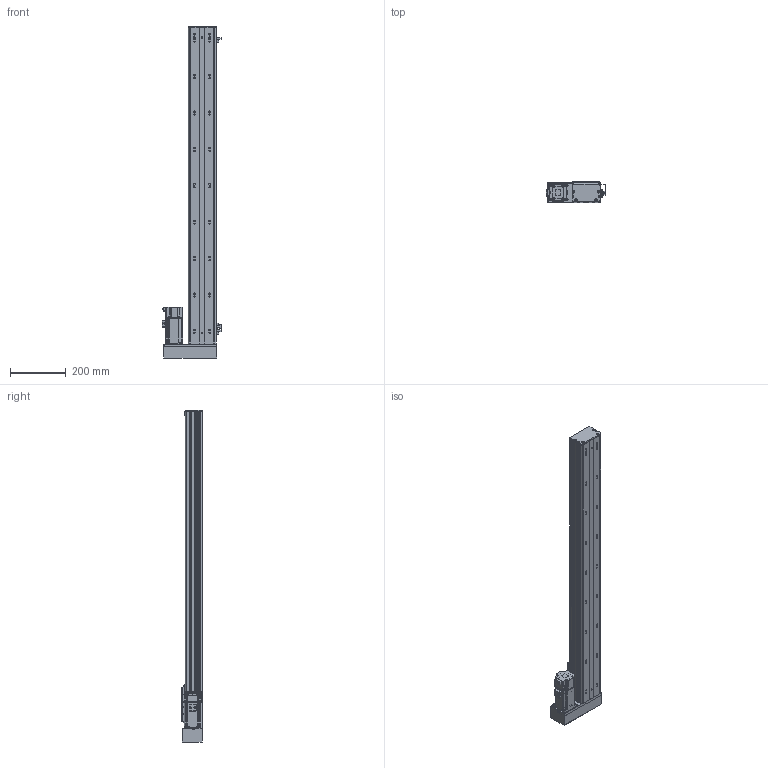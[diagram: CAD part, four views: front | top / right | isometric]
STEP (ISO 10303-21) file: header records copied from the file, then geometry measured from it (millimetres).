
FILE_DESCRIPTION (( 'STEP AP203' ), '1' );
FILE_NAME ('BOSW100-950-1610-1P-RM-M400W-O-S3（方程式2016）.step', '2020-10-10T07:22:18', ( '' ), ( '' ), 'SwSTEP 2.0', 'SolidWorks 2016', '' );
FILE_SCHEMA (( 'CONFIG_CONTROL_DESIGN' ));
Length unit declared in the file: millimetre
Products named in the file (14): BOSW100-950-1610-1P-RM-M400W-O-S3（方程式2016）; BOSW-100-綴裔啣; BOSW-100-1P-DM-宽轨-侧板-950客户图纸; BOSW-100-1P-DM-宽轨-钢带-950客户图纸; BOSW&TW-100-詩湍揤沭(陔賦凳); boS-100-LM&RM-三菱M400W马达板-宽轨; S400W(SMA-L040); 俋境嫖覜嘐隅啣; 新结构AIMSW-100-1P-宽&高轨共用-滑动座上组件; BOSW&TW-100-俋离覜茼え; BOSW&TW-100-1P-賑雄釱欶; AIMS(W)-100-LM&RM-肮祭謫欶; 放大器内置U型微型光电传感器PM-L65; BOSW-100-1P-DM-950諦誧芞
Assembly tree (19 placements, depth 2):
  BOSW100-950-1610-1P-RM-M400W-O-S3（方程式2016）
    BOSW-100-1P-DM-950諦誧芞
    BOSW-100-綴裔啣
    新结构AIMSW-100-1P-宽&高轨共用-滑动座上组件
    S400W(SMA-L040)
    BOSW&TW-100-詩湍揤沭(陔賦凳)  x2
    BOSW&TW-100-1P-賑雄釱欶
    BOSW-100-1P-DM-宽轨-侧板-950客户图纸  x2
    BOSW-100-1P-DM-宽轨-钢带-950客户图纸
    AIMS(W)-100-LM&RM-肮祭謫欶
    boS-100-LM&RM-三菱M400W马达板-宽轨
    俋境嫖覜嘐隅啣  x3
    放大器内置U型微型光电传感器PM-L65  x3
    BOSW&TW-100-俋离覜茼え
Bounding box: 213.4 x 75 x 1186 mm (x, y, z)
Volume: 2572295.6 mm3; surface area: 1193254.3 mm2
Topology: 19 solids, 20 shells, 2579 faces, 6831 edges, 4363 vertices
Faces by surface type: plane 1249, cylinder 844, bspline 271, cone 167, torus 36, sphere 12
Entity records: 71316 total; most frequent: CARTESIAN_POINT 21218, ORIENTED_EDGE 10202, DIRECTION 9909, EDGE_CURVE 5101, AXIS2_PLACEMENT_3D 3535, VERTEX_POINT 3265, LINE 2839, VECTOR 2839
